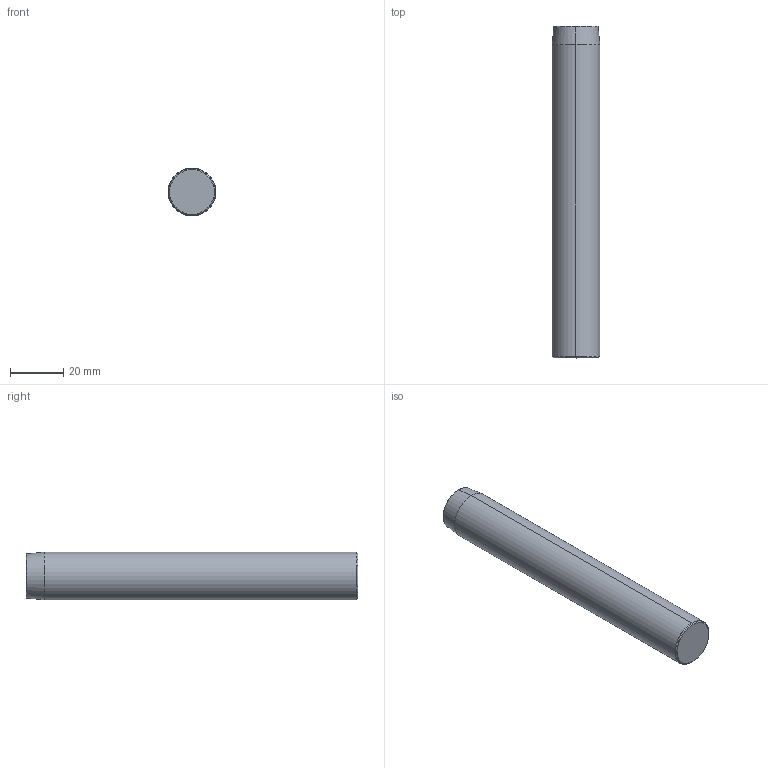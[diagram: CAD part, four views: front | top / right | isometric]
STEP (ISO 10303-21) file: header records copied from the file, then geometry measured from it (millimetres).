
FILE_DESCRIPTION( ( 'STEP AP203' ), '1' );
FILE_NAME( 'D:/Delta 3 D/D09/D09 - 18x125.step', '2002-12-31T22:30:28', ( ' ' ), ( ' ' ), 'XStep 1.0', ' ', ' ' );
FILE_SCHEMA( ( 'CONFIG_CONTROL_DESIGN' ) );
Length unit declared in the file: metre
Products named in the file (1): 1
Bounding box: 18 x 125 x 18 mm (x, y, z)
Volume: 31658.7 mm3; surface area: 7499.3 mm2
Topology: 1 solids, 1 shells, 20 faces, 38 edges, 20 vertices
Faces by surface type: bspline 12, revolution 8
Entity records: 665 total; most frequent: CARTESIAN_POINT 281, ORIENTED_EDGE 76, DIRECTION 58, EDGE_CURVE 38, AXIS2_PLACEMENT_3D 21, ADVANCED_FACE 20, FACE_OUTER_BOUND 20, EDGE_LOOP 20
